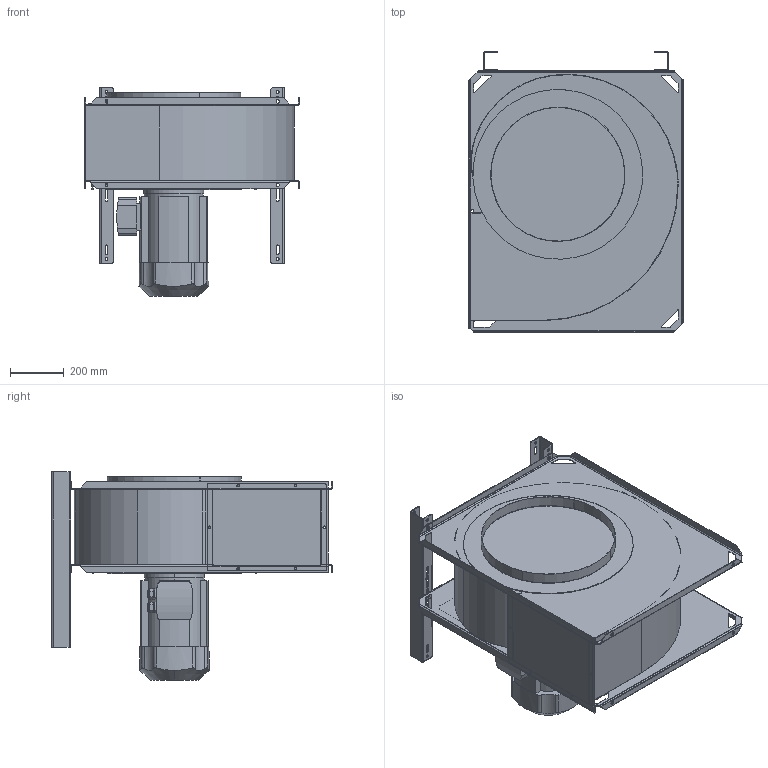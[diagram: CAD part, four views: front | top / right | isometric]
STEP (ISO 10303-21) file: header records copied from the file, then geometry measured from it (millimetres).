
FILE_DESCRIPTION((''),'2;1');
FILE_NAME('FBE_750-3_LG90','2022-10-13T14:18:52',('Tomas Bellgran'),(''),'CREO PARAMETRIC BY PTC INC, 2018260','CREO PARAMETRIC BY PTC INC, 2018260','');
FILE_SCHEMA(('AUTOMOTIVE_DESIGN { 1 0 10303 214 1 1 1 1 }'));
Length unit declared in the file: millimetre
Products named in the file (13): 114789; 114785; 114786; 114791; 116329; 114808; 114807; 114806; 4A3_132S_B5_L; 120072; 107961; 101127; FBE_750-3_LG90
Assembly tree (13 placements, depth 3):
  FBE_750-3_LG90
    114791
      114789
      114785
      114786
    116329
    114806
      114808
      114807
    120072
      4A3_132S_B5_L
    107961  x2
    101127
Bounding box: 795.8 x 1040 x 772 mm (x, y, z)
Volume: 30358405.3 mm3; surface area: 6800136.6 mm2
Topology: 11 solids, 11 shells, 691 faces, 1776 edges, 1120 vertices
Faces by surface type: plane 392, cylinder 263, bspline 30, cone 6
Entity records: 32415 total; most frequent: CARTESIAN_POINT 5376, ORIENTED_EDGE 3200, DIRECTION 3182, PRESENTATION_STYLE_ASSIGNMENT 2235, STYLED_ITEM 2235, CURVE_STYLE 1600, EDGE_CURVE 1600, VECTOR 1084
